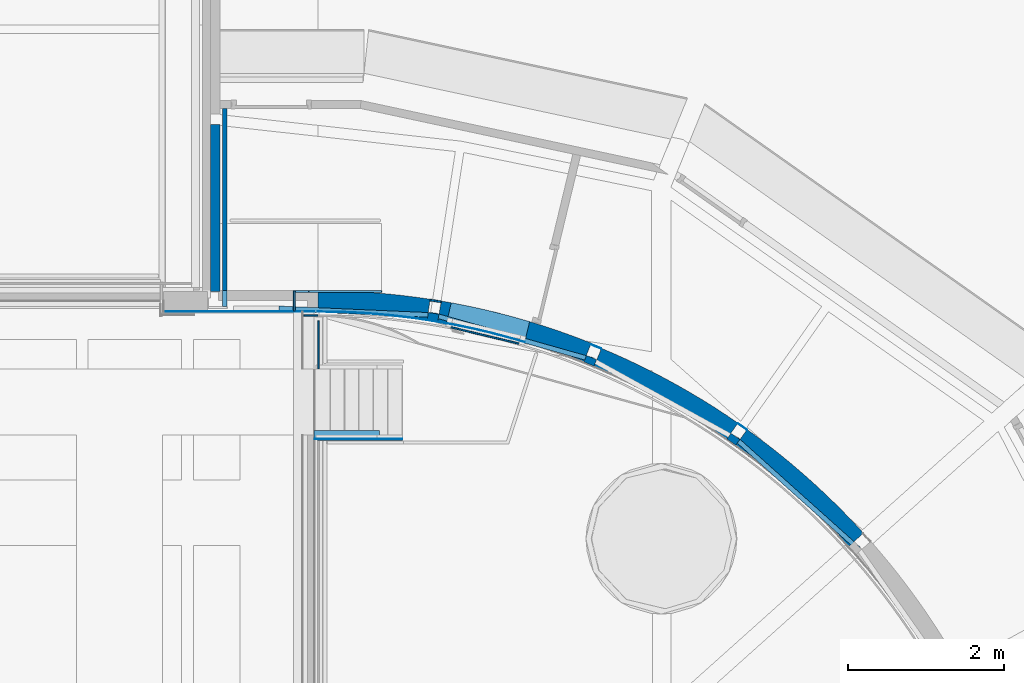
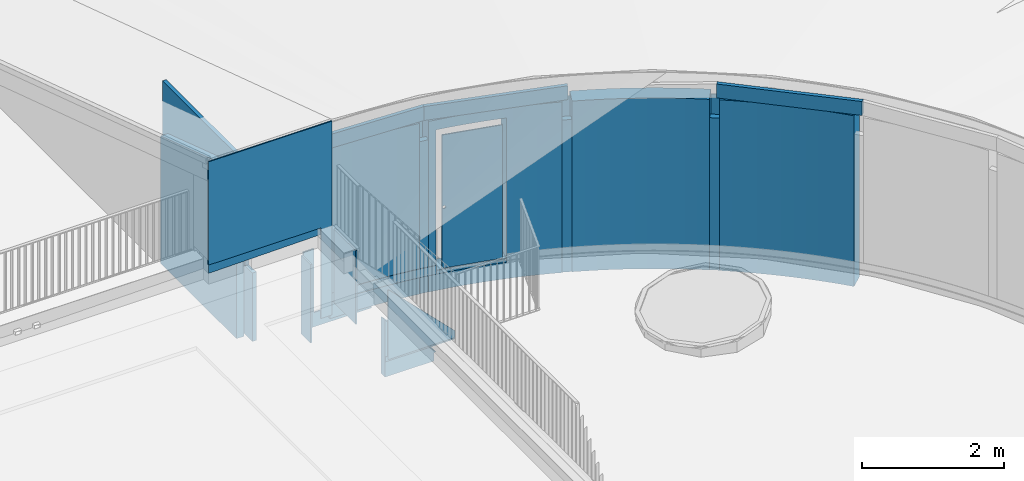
# One storey, part 33 of 66: 26 walls, 7 openings.
"""IFC2X3 building model written with IfcOpenShell, lengths in millimetres."""

from ifc_helpers import new_model, entity, si_unit, converted_unit, derived_unit, direction, frame, frame_2d, origin, origin_2d_with_axis, place, context, subcontext, project, spatial, polyline, circle_curve, parameter, trimmed, segment, composite_curve, rectangle, circle, outline, extrude, clip, halfspace, material, layer, layer_set, layer_usage, type_object, element, save


model = new_model("IFC2X3")

# Units and contexts
model_context = context("Model", 3, precision=0.01, world=origin(), true_north=direction((6.12303176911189e-17, 1.0)))
body_context = subcontext(model_context, "Body", "Model", "MODEL_VIEW")
ifc_project = project(units=[si_unit("LENGTHUNIT", "METRE", prefix="MILLI"), si_unit("AREAUNIT", "SQUARE_METRE"), si_unit("VOLUMEUNIT", "CUBIC_METRE"), converted_unit("PLANEANGLEUNIT", "DEGREE", entity("IfcRatioMeasure", 0.0174532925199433), si_unit("PLANEANGLEUNIT", "RADIAN"), dimensions=[0, 0, 0, 0, 0, 0, 0]), si_unit("MASSUNIT", "GRAM", prefix="KILO"), derived_unit("MASSDENSITYUNIT", [(si_unit("MASSUNIT", "GRAM", prefix="KILO"), 1), (si_unit("LENGTHUNIT", "METRE"), -3)]), derived_unit("MOMENTOFINERTIAUNIT", [(si_unit("LENGTHUNIT", "METRE"), 4)]), si_unit("TIMEUNIT", "SECOND"), si_unit("FREQUENCYUNIT", "HERTZ"), si_unit("THERMODYNAMICTEMPERATUREUNIT", "DEGREE_CELSIUS"), derived_unit("THERMALTRANSMITTANCEUNIT", [(si_unit("MASSUNIT", "GRAM", prefix="KILO"), 1), (si_unit("THERMODYNAMICTEMPERATUREUNIT", "KELVIN"), -1), (si_unit("TIMEUNIT", "SECOND"), -3)]), derived_unit("VOLUMETRICFLOWRATEUNIT", [(si_unit("LENGTHUNIT", "METRE"), 3), (si_unit("TIMEUNIT", "SECOND"), -1)]), si_unit("ELECTRICCURRENTUNIT", "AMPERE"), si_unit("ELECTRICVOLTAGEUNIT", "VOLT"), si_unit("POWERUNIT", "WATT"), si_unit("FORCEUNIT", "NEWTON", prefix="KILO"), si_unit("ILLUMINANCEUNIT", "LUX"), si_unit("LUMINOUSFLUXUNIT", "LUMEN"), si_unit("LUMINOUSINTENSITYUNIT", "CANDELA"), derived_unit("USERDEFINED", [(si_unit("MASSUNIT", "GRAM", prefix="KILO"), -1), (si_unit("LENGTHUNIT", "METRE"), -2), (si_unit("TIMEUNIT", "SECOND"), 3), (si_unit("LUMINOUSFLUXUNIT", "LUMEN"), 1)]), derived_unit("LINEARVELOCITYUNIT", [(si_unit("LENGTHUNIT", "METRE"), 1), (si_unit("TIMEUNIT", "SECOND"), -1)]), si_unit("PRESSUREUNIT", "PASCAL"), derived_unit("USERDEFINED", [(si_unit("LENGTHUNIT", "METRE"), -2), (si_unit("MASSUNIT", "GRAM", prefix="KILO"), 1), (si_unit("TIMEUNIT", "SECOND"), -2)]), derived_unit("LINEARFORCEUNIT", [(si_unit("MASSUNIT", "GRAM", prefix="KILO"), 1), (si_unit("LENGTHUNIT", "METRE"), 1), (si_unit("TIMEUNIT", "SECOND"), -2), (si_unit("LENGTHUNIT", "METRE"), -1)]), derived_unit("PLANARFORCEUNIT", [(si_unit("MASSUNIT", "GRAM", prefix="KILO"), 1), (si_unit("LENGTHUNIT", "METRE"), 1), (si_unit("TIMEUNIT", "SECOND"), -2), (si_unit("LENGTHUNIT", "METRE"), -2)])], contexts=[model_context])

# Site, building, storey
site_placement = place(None, origin())
site = spatial("IfcSite", under=ifc_project, at=site_placement, Name="Default", CompositionType="ELEMENT")
building_placement = place(site_placement, origin())
building = spatial("IfcBuilding", under=site, at=building_placement, Name="-", CompositionType="ELEMENT")
storey_placement = place(building_placement, frame((0.0, 0.0, 3070.0)))
storey = spatial("IfcBuildingStorey", under=building, at=storey_placement, Name="01 eerste verdieping", CompositionType="ELEMENT", Elevation=3070.00000000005)

# Wall
ifc_material_1 = material(Name="NLRS_f1_kalkzandsteen_CS20")
ifc_layer_1 = layer(ifc_material_1, 120.0)
ifc_layer_set_1 = layer_set([ifc_layer_1], Name="Basic Wall:NLRS_21_WA_kalkzandsteen_120mm_CS20_gen_aly")
ifc_layer_usage_1 = layer_usage(ifc_layer_set_1, "AXIS2", "NEGATIVE", 60.0)
wall_type_1 = type_object("IfcWallType", Name="Basic Wall:NLRS_21_WA_kalkzandsteen_120mm_CS20_gen_aly", PredefinedType="STANDARD", material=ifc_layer_set_1)
wall_1_placement = place(storey_placement, frame((49329.6203901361, 31216.9445357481, 82.0), z_axis=(0.0, 0.0, 1.0), x_axis=(0.0, -1.0, 0.0)))
element("IfcWallStandardCase", 1, at=wall_1_placement, inside=storey, type_object=wall_type_1, material=ifc_layer_usage_1, Name="Basic Wall:NLRS_21_WA_kalkzandsteen_120mm_CS20_gen_aly", ObjectType="Basic Wall:NLRS_21_WA_kalkzandsteen_120mm_CS20_gen_aly", context=body_context, shape_type="Clipping", body=[
    clip(extrude(rectangle(XDim=2144.44917322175, YDim=120.000000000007, at=frame_2d((1072.22458661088, 1.36779476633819e-12), x_axis=(-1.0, 0.0))), origin(), (0.0, 0.0, 1.0), 2909.28783057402), halfspace(frame((0.0, -60.0, 2200.45842531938), z_axis=(-0.313841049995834, 0.0, 0.949475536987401), x_axis=(0.0, 1.0, 0.0)), False)),
])

# Wall, opening
ifc_material_2 = material(Name="NLRS_i4_hout_multiplex")
ifc_layer_2 = layer(ifc_material_2, 9.0)
ifc_material_3 = material(Name="NLRS_m1_isolatie")
ifc_layer_3 = layer(ifc_material_3, 89.0)
ifc_layer_4 = layer(ifc_material_2, 9.0)
ifc_layer_set_2 = layer_set([ifc_layer_2, ifc_layer_3, ifc_layer_4], Name="Basic Wall:NLRS_21_WA_HSB-wand_110mm")
ifc_layer_usage_2 = layer_usage(ifc_layer_set_2, "AXIS2", "NEGATIVE", 53.5)
wall_type_2 = type_object("IfcWallType", Name="Basic Wall:NLRS_21_WA_HSB-wand_110mm", PredefinedType="STANDARD", material=ifc_layer_set_2)
wall_2_placement = place(storey_placement, frame((50599.1203901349, 27234.4965964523, 100.0)))
wall_2 = element("IfcWallStandardCase", 2, at=wall_2_placement, inside=storey, type_object=wall_type_2, material=ifc_layer_usage_2, Name="Basic Wall:NLRS_21_WA_HSB-wand_110mm", ObjectType="Basic Wall:NLRS_21_WA_HSB-wand_110mm", context=body_context, shape_type="Clipping", body=[
    clip(clip(extrude(rectangle(XDim=839.165664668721, YDim=107.000000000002, at=frame_2d((419.582832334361, -3.30402372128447e-13), x_axis=(-1.0, 0.0))), origin(), (0.0, 0.0, 1.0), 985.813669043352), halfspace(frame((0.0, -53.5000000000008, 985.813669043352), z_axis=(0.707379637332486, 0.0, 0.706833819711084), x_axis=(0.0, 1.0, 0.0)), False)), halfspace(frame((802.499999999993, 0.0, 0.0), z_axis=(0.969883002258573, 0.0, -0.243571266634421), x_axis=(0.0, 1.0, 0.0)), False)),
])
opening_1_placement = place(wall_2_placement, origin())
element("IfcOpeningElement", 3, at=opening_1_placement, cuts=wall_2, Name="Basic Wall:NLRS_21_WA_HSB-wand_110mm", ObjectType="Opening", context=body_context, shape_type="SweptSolid", body=[
    extrude(outline(polyline([(-97.3788463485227, -11.8538016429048), (53.1547743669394, -11.8538016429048), (44.2240719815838, 23.7076032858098), (-97.3788463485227, -11.8538016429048)])), frame((814.721888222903, 53.5000000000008, 97.333333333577), z_axis=(0.0, -1.0, 0.0), x_axis=(0.243571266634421, 0.0, 0.969883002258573)), (0.0, 0.0, 1.0), 107.0),
])

ifc_material_4 = material(Name="AL Houten gevelbekleding staand")
ifc_layer_5 = layer(ifc_material_4, 20.0)
ifc_layer_set_3 = layer_set([ifc_layer_5], Name="Basic Wall:NLRS_42_WA_Houten gevelbekleding staand 20mm")
ifc_layer_usage_3 = layer_usage(ifc_layer_set_3, "AXIS2", "NEGATIVE", 10.0)
wall_type_3 = type_object("IfcWallType", Name="Basic Wall:NLRS_42_WA_Houten gevelbekleding staand 20mm", PredefinedType="STANDARD", material=ifc_layer_set_3)
wall_3_placement = place(storey_placement, frame((50647.2850050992, 28764.4953625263, 206.0), z_axis=(0.0, 0.0, 1.0), x_axis=(-1.0, 0.0, 0.0)))
wall_3 = element("IfcWallStandardCase", 4, at=wall_3_placement, inside=storey, type_object=wall_type_3, material=ifc_layer_usage_3, Name="Basic Wall:NLRS_42_WA_Houten gevelbekleding staand 20mm", ObjectType="Basic Wall:NLRS_42_WA_Houten gevelbekleding staand 20mm", context=body_context, shape_type="SweptSolid", body=[
    extrude(rectangle(XDim=2020.164614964, YDim=20.0000000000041, at=frame_2d((1010.082307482, 0.0), x_axis=(-1.0, 0.0))), origin(), (0.0, 0.0, 1.0), 3344.0),
])
opening_2_placement = place(wall_3_placement, origin())
element("IfcOpeningElement", 5, at=opening_2_placement, cuts=wall_3, Name="Basic Wall:NLRS_42_WA_Houten gevelbekleding staand 20mm", ObjectType="Opening", context=body_context, shape_type="SweptSolid", body=[
    extrude(rectangle(XDim=1564.0, YDim=1838.24999999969, at=frame_2d((0.0, -5.6843418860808e-13), x_axis=(0.0, 1.0))), frame((1101.03961496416, 10.0, 782.0), z_axis=(0.0, -1.0, 0.0), x_axis=(1.0, 0.0, 0.0)), (0.0, 0.0, 1.0), 20.0),
])

# Wall
ifc_layer_usage_4 = layer_usage(ifc_layer_set_3, "AXIS2", "NEGATIVE", 10.0)
wall_4_placement = place(storey_placement, frame((50652.137263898, 28080.7088527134, 450.0), z_axis=(0.0, 0.0, 1.0), x_axis=(0.0, 1.0, 0.0)))
element("IfcWallStandardCase", 6, at=wall_4_placement, inside=storey, type_object=wall_type_3, material=ifc_layer_usage_4, Name="Basic Wall:NLRS_42_WA_Houten gevelbekleding staand 20mm", ObjectType="Basic Wall:NLRS_42_WA_Houten gevelbekleding staand 20mm", context=body_context, shape_type="SweptSolid", body=[
    extrude(rectangle(XDim=614.999999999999, YDim=19.9999999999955, at=frame_2d((307.499999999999, 0.0), x_axis=(-1.0, 0.0))), origin(), (0.0, 0.0, 1.0), 1275.0),
])

# Wall, opening
ifc_layer_usage_5 = layer_usage(ifc_layer_set_3, "AXIS2", "NEGATIVE", 10.0)
wall_5_placement = place(storey_placement, frame((52352.6586074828, 28614.2532488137, 502.0), z_axis=(0.0, 0.0, 1.0), x_axis=(0.972188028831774, -0.234201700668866, 0.0)))
wall_5 = element("IfcWallStandardCase", 7, at=wall_5_placement, inside=storey, type_object=wall_type_3, material=ifc_layer_usage_5, Name="Basic Wall:NLRS_42_WA_Houten gevelbekleding staand 20mm", ObjectType="Basic Wall:NLRS_42_WA_Houten gevelbekleding staand 20mm", context=body_context, shape_type="SweptSolid", body=[
    extrude(rectangle(XDim=896.876860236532, YDim=20.0000000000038, at=frame_2d((448.438430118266, 1.88205007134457e-12), x_axis=(-1.0, 0.0))), origin(), (0.0, 0.0, 1.0), 2299.67788980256),
])
opening_3_placement = place(wall_5_placement, origin())
element("IfcOpeningElement", 8, at=opening_3_placement, cuts=wall_5, Name="Basic Wall:NLRS_42_WA_Houten gevelbekleding staand 20mm", ObjectType="Opening", context=body_context, shape_type="SweptSolid", body=[
    extrude(circle(Radius=24.9999999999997, at=origin_2d_with_axis()), frame((34.0629532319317, 10.0, 1050.0), z_axis=(0.0, -1.0, 0.0), x_axis=(-1.0, 0.0, 0.0)), (0.0, 0.0, 1.0), 20.0),
])

# Wall
ifc_layer_6 = layer(ifc_material_2, 10.0)
ifc_layer_7 = layer(ifc_material_3, 235.0)
ifc_layer_8 = layer(ifc_material_2, 10.0)
ifc_material_5 = material(Name="NLRS_f7_gipsplaat_gen")
ifc_layer_9 = layer(ifc_material_5, 12.5)
ifc_layer_set_4 = layer_set([ifc_layer_6, ifc_layer_7, ifc_layer_8, ifc_layer_9], Name="Basic Wall:NLRS_21_WA_HSB-wand_268mm")
ifc_layer_usage_6 = layer_usage(ifc_layer_set_4, "AXIS2", "NEGATIVE", 133.75)
wall_type_4 = type_object("IfcWallType", Name="Basic Wall:NLRS_21_WA_HSB-wand_268mm", PredefinedType="STANDARD", material=ifc_layer_set_4)
wall_6_placement = place(storey_placement, frame((52066.9767702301, 28842.5495584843, 100.0)))
element("IfcWallStandardCase", 9, at=wall_6_placement, inside=storey, type_object=wall_type_4, material=ifc_layer_usage_6, Name="Basic Wall:NLRS_21_WA_HSB-wand_268mm", ObjectType="Basic Wall:NLRS_21_WA_HSB-wand_268mm", context=body_context, shape_type="SweptSolid", body=[
    extrude(outline(composite_curve([segment(trimmed(circle_curve(frame_2d((-1420.41410821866, -9226.4898295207), x_axis=(1.0, 0.0)), 9201.4356335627), [parameter(81.2480497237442)], [parameter(89.9999999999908)], True, "PARAMETER"), False, "CONTINUOUS"), segment(polyline([(-20.351002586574, -132.192659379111), (20.3510025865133, 132.192659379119)]), True, "CONTINUOUS"), segment(trimmed(circle_curve(frame_2d((-1420.41410821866, -9226.4898295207), x_axis=(1.0, 0.0)), 9468.9356335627), [parameter(81.2480497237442)], [parameter(89.9999999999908)], True, "PARAMETER"), True, "CONTINUOUS"), segment(polyline([(-1420.41410821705, 242.445804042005), (-1420.41410821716, -25.0541959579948)]), True, "CONTINUOUS")], self_intersect=False)), origin(), (0.0, 0.0, 1.0), 2945.0),
])

# Wall, opening
ifc_layer_usage_7 = layer_usage(ifc_layer_set_4, "AXIS2", "NEGATIVE", 133.75)
wall_7_placement = place(storey_placement, frame((54104.8715482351, 28287.0337492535, 100.0)))
wall_7 = element("IfcWallStandardCase", 10, at=wall_7_placement, inside=storey, type_object=wall_type_4, material=ifc_layer_usage_7, Name="Basic Wall:NLRS_21_WA_HSB-wand_268mm", ObjectType="Basic Wall:NLRS_21_WA_HSB-wand_268mm", context=body_context, shape_type="SweptSolid", body=[
    extrude(outline(composite_curve([segment(trimmed(circle_curve(frame_2d((-3458.30888622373, -8670.97402028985), x_axis=(1.0, 0.0)), 9201.4356335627), [parameter(68.2560368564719)], [parameter(80.3737254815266)], True, "PARAMETER"), False, "CONTINUOUS"), segment(polyline([(-49.5489679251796, -124.233499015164), (49.548967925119, 124.233499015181)]), True, "CONTINUOUS"), segment(trimmed(circle_curve(frame_2d((-3458.30888622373, -8670.97402028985), x_axis=(1.0, 0.0)), 9468.9356335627), [parameter(68.2560368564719)], [parameter(80.3737254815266)], True, "PARAMETER"), True, "CONTINUOUS"), segment(polyline([(-1874.90509782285, 664.633858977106), (-1919.6366843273, 400.90040419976)]), True, "CONTINUOUS")], self_intersect=False)), origin(), (0.0, 0.0, 1.0), 2945.0),
])
opening_4_placement = place(wall_7_placement, origin())
element("IfcOpeningElement", 11, at=opening_4_placement, cuts=wall_7, Name="Basic Wall:NLRS_21_WA_HSB-wand_268mm", ObjectType="Opening", context=body_context, shape_type="SweptSolid", body=[
    extrude(rectangle(XDim=460.086226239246, YDim=1033.98355141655, at=frame_2d((-5.24380538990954e-12, 3.18323145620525e-12), x_axis=(1.0, 0.0))), frame((-1276.97674971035, 383.845078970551, 350.0), z_axis=(0.0, 0.0, 1.0), x_axis=(-0.234120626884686, -0.972207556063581, 0.0)), (0.0, 0.0, 1.0), 2422.0),
    extrude(rectangle(XDim=1034.0, YDim=450.000000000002, at=frame_2d((3.75166564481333e-12, -3.11217718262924e-12), x_axis=(1.0, 0.0))), frame((-1282.41812347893, -17721.1398156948, 350.0), z_axis=(0.0, 0.0, 1.0), x_axis=(-0.972293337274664, -0.233764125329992, 0.0)), (0.0, 0.0, 1.0), 2422.0),
])

# Walls
ifc_layer_10 = layer(ifc_material_2, 10.0)
ifc_layer_11 = layer(ifc_material_3, 235.0)
ifc_layer_12 = layer(ifc_material_2, 10.0)
ifc_layer_set_5 = layer_set([ifc_layer_10, ifc_layer_11, ifc_layer_12], Name="Basic Wall:NLRS_21_WA_HSB-wand_268mm (zonder gips)")
ifc_layer_usage_8 = layer_usage(ifc_layer_set_5, "AXIS2", "NEGATIVE", 127.5)
wall_type_5 = type_object("IfcWallType", Name="Basic Wall:NLRS_21_WA_HSB-wand_268mm (zonder gips)", PredefinedType="STANDARD", material=ifc_layer_set_5)
wall_8_placement = place(storey_placement, frame((55964.3483738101, 27281.0056598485, 100.0)))
element("IfcWallStandardCase", 12, at=wall_8_placement, inside=storey, type_object=wall_type_5, material=ifc_layer_usage_8, Name="Basic Wall:NLRS_21_WA_HSB-wand_268mm (zonder gips)", ObjectType="Basic Wall:NLRS_21_WA_HSB-wand_268mm (zonder gips)", context=body_context, shape_type="SweptSolid", body=[
    extrude(outline(composite_curve([segment(trimmed(circle_curve(frame_2d((-5317.78571179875, -7664.9459308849), x_axis=(1.0, 0.0)), 9201.5), [parameter(55.2478628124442)], [parameter(67.3638573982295)], True, "PARAMETER"), False, "CONTINUOUS"), segment(polyline([(-72.678494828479, -104.757273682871), (72.6784948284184, 104.757273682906)]), True, "CONTINUOUS"), segment(trimmed(circle_curve(frame_2d((-5317.78571179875, -7664.9459308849), x_axis=(1.0, 0.0)), 9456.5), [parameter(55.2478628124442)], [parameter(67.3638573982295)], True, "PARAMETER"), True, "CONTINUOUS"), segment(polyline([(-1678.19055500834, 1063.09734035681), (-1776.33434657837, 827.740597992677)]), True, "CONTINUOUS")], self_intersect=False)), origin(), (0.0, 0.0, 1.0), 2945.0),
])
ifc_layer_usage_9 = layer_usage(ifc_layer_set_5, "AXIS2", "NEGATIVE", 127.5)
wall_9_placement = place(storey_placement, frame((57552.9037374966, 25887.6379951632, 100.0)))
element("IfcWallStandardCase", 13, at=wall_9_placement, inside=storey, type_object=wall_type_5, material=ifc_layer_usage_9, Name="Basic Wall:NLRS_21_WA_HSB-wand_268mm (zonder gips)", ObjectType="Basic Wall:NLRS_21_WA_HSB-wand_268mm (zonder gips)", context=body_context, shape_type="SweptSolid", body=[
    extrude(outline(composite_curve([segment(trimmed(circle_curve(frame_2d((-6906.34107548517, -6271.57826619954), x_axis=(1.0, 0.0)), 9201.5), [parameter(42.2422702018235)], [parameter(54.3753457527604)], True, "PARAMETER"), False, "CONTINUOUS"), segment(polyline([(-94.3893758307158, -85.7140346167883), (94.3893758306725, 85.7140346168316)]), True, "CONTINUOUS"), segment(trimmed(circle_curve(frame_2d((-6906.34107548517, -6271.57826619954), x_axis=(1.0, 0.0)), 9456.5), [parameter(42.2422702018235)], [parameter(54.3753457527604)], True, "PARAMETER"), True, "CONTINUOUS"), segment(polyline([(-1398.18712063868, 1415.13964586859), (-1546.71768252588, 1207.86284498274)]), True, "CONTINUOUS")], self_intersect=False)), origin(), (0.0, 0.0, 1.0), 2945.0),
])
ifc_material_6 = material(Name="AL Houten beplating gevel")
ifc_layer_13 = layer(ifc_material_6, 18.0)
ifc_layer_set_6 = layer_set([ifc_layer_13], Name="Basic Wall:NLRS_42_WA_Trespa bruin")
ifc_layer_usage_10 = layer_usage(ifc_layer_set_6, "AXIS2", "NEGATIVE", 9.0)
wall_type_6 = type_object("IfcWallType", Name="Basic Wall:NLRS_42_WA_Trespa bruin", PredefinedType="STANDARD", material=ifc_layer_set_6)
wall_10_placement = place(storey_placement, frame((50643.1372638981, 27171.9965964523, 400.0)))
element("IfcWallStandardCase", 14, at=wall_10_placement, inside=storey, type_object=wall_type_6, material=ifc_layer_usage_10, Name="Basic Wall:NLRS_42_WA_Trespa bruin", ObjectType="Basic Wall:NLRS_42_WA_Trespa bruin", context=body_context, shape_type="Clipping", body=[
    clip(clip(extrude(rectangle(XDim=1088.48312623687, YDim=17.9999999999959, at=frame_2d((544.241563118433, 3.5527136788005e-15), x_axis=(-1.0, 0.0))), origin(), (0.0, 0.0, 1.0), 1189.65278426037), halfspace(frame((1088.48312623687, -9.0, 0.0), z_axis=(0.0, 0.0, -1.0), x_axis=(0.0, 1.0, 0.0)), False)), halfspace(frame((19.0, -9.0, 1189.65278426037), z_axis=(0.707709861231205, 0.0, 0.706503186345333), x_axis=(0.0, 1.0, 0.0)), False)),
])
ifc_material_7 = material(Name="n2_bitumen_dak bedekking")
ifc_layer_14 = layer(ifc_material_7, 6.0)
ifc_layer_set_7 = layer_set([ifc_layer_14], Name="Basic Wall:47.11_2 laagse APP dakbedekking")
ifc_layer_usage_11 = layer_usage(ifc_layer_set_7, "AXIS2", "NEGATIVE", 3.0)
wall_type_7 = type_object("IfcWallType", Name="Basic Wall:47.11_2 laagse APP dakbedekking", PredefinedType="STANDARD", material=ifc_layer_set_7)
wall_11_placement = place(storey_placement, frame((50599.1203901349, 28814.4953625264, 1580.60670313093), z_axis=(0.0, 0.0, 1.0), x_axis=(-1.0, 0.0, 0.0)))
element("IfcWallStandardCase", 15, at=wall_11_placement, inside=storey, type_object=wall_type_7, material=ifc_layer_usage_11, Name="Basic Wall:47.11_2 laagse APP dakbedekking", ObjectType="Basic Wall:47.11_2 laagse APP dakbedekking", context=body_context, shape_type="Clipping", body=[
    clip(extrude(rectangle(XDim=1932.55772812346, YDim=5.99999999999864, at=frame_2d((966.278864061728, 6.19948536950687e-13), x_axis=(-1.0, 0.0))), origin(), (0.0, 0.0, 1.0), 219.393296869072), halfspace(frame((1932.55772812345, -3.0, 0.0), z_axis=(-0.0159979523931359, 0.0, -0.999872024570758), x_axis=(0.0, 1.0, 0.0)), False)),
])
ifc_layer_usage_12 = layer_usage(ifc_layer_set_7, "AXIS2", "POSITIVE", -3.0)
wall_12_placement = place(storey_placement, frame((51731.6203901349, 27177.9965964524, 365.869195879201), z_axis=(0.0, 0.0, 1.0), x_axis=(-1.0, 0.0, 0.0)))
element("IfcWallStandardCase", 16, at=wall_12_placement, inside=storey, type_object=wall_type_7, material=ifc_layer_usage_12, Name="Basic Wall:47.11_2 laagse APP dakbedekking", ObjectType="Basic Wall:47.11_2 laagse APP dakbedekking", context=body_context, shape_type="SweptSolid", body=[
    extrude(rectangle(XDim=1126.48312623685, YDim=5.99999999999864, at=frame_2d((563.241563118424, 0.0), x_axis=(-1.0, 0.0))), origin(), (0.0, 0.0, 1.0), 84.1308041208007),
])
ifc_layer_usage_13 = layer_usage(ifc_layer_set_7, "AXIS2", "NEGATIVE", 3.0)
wall_13_placement = place(storey_placement, frame((53299.9188444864, 28423.4951714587, 387.0)))
element("IfcWallStandardCase", 17, at=wall_13_placement, inside=storey, type_object=wall_type_7, material=ifc_layer_usage_13, Name="Basic Wall:47.11_2 laagse APP dakbedekking", ObjectType="Basic Wall:47.11_2 laagse APP dakbedekking", context=body_context, shape_type="SweptSolid", body=[
    extrude(outline(composite_curve([segment(trimmed(circle_curve(frame_2d((-2653.35618247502, -8807.43544249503), x_axis=(1.0, 0.0)), 9195.4356335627), [parameter(73.2343788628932)], [parameter(79.6762115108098)], True, "PARAMETER"), False, "CONTINUOUS"), segment(polyline([(-0.865371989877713, -2.87247825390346), (0.865371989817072, 2.87247825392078)]), True, "CONTINUOUS"), segment(trimmed(circle_curve(frame_2d((-2653.35618247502, -8807.43544249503), x_axis=(1.0, 0.0)), 9201.4356335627), [parameter(73.2343788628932)], [parameter(79.6762115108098)], True, "PARAMETER"), True, "CONTINUOUS"), segment(polyline([(-1004.36049448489, 245.035542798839), (-1005.43575866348, 239.132678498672)]), True, "CONTINUOUS")], self_intersect=False)), origin(), (0.0, 0.0, 1.0), 62.9999999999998),
])
ifc_layer_usage_14 = layer_usage(ifc_layer_set_7, "AXIS2", "NEGATIVE", 3.0)
wall_14_placement = place(storey_placement, frame((52295.0207179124, 28665.5792821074, 387.0)))
element("IfcWallStandardCase", 18, at=wall_14_placement, inside=storey, type_object=wall_type_7, material=ifc_layer_usage_14, Name="Basic Wall:47.11_2 laagse APP dakbedekking", ObjectType="Basic Wall:47.11_2 laagse APP dakbedekking", context=body_context, shape_type="SweptSolid", body=[
    extrude(outline(composite_curve([segment(trimmed(circle_curve(frame_2d((-1648.45805590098, -9049.51955314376), x_axis=(1.0, 0.0)), 9195.4356335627), [parameter(79.6762115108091)], [parameter(90.0000000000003)], True, "PARAMETER"), False, "CONTINUOUS"), segment(polyline([(-0.537632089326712, -2.95143215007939), (0.537632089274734, 2.95143215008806)]), True, "CONTINUOUS"), segment(trimmed(circle_curve(frame_2d((-1648.45805590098, -9049.51955314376), x_axis=(1.0, 0.0)), 9201.4356335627), [parameter(79.676211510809)], [parameter(90.0000000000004)], True, "PARAMETER"), True, "CONTINUOUS"), segment(polyline([(-1648.45805590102, 151.916080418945), (-1648.45805590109, 145.916080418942)]), True, "CONTINUOUS")], self_intersect=False)), origin(), (0.0, 0.0, 1.0), 150.000000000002),
])
ifc_material_8 = material(Name="NLRS_n7_isolatie PIR_gen")
ifc_layer_15 = layer(ifc_material_8, 60.0)
ifc_layer_set_8 = layer_set([ifc_layer_15], Name="Basic Wall:NLRS_22_WA_LB_isolatie PIR 60mm")
ifc_layer_usage_15 = layer_usage(ifc_layer_set_8, "AXIS2", "NEGATIVE", 30.0)
wall_type_8 = type_object("IfcWallType", Name="Basic Wall:NLRS_22_WA_LB_isolatie PIR 60mm", PredefinedType="STANDARD", material=ifc_layer_set_8)
wall_15_placement = place(storey_placement, frame((50145.2168861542, 28857.5241928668, 3045.0), z_axis=(0.0, 0.0, 1.0), x_axis=(0.999038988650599, -0.0438303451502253, 0.0)))
element("IfcWallStandardCase", 19, at=wall_15_placement, inside=storey, type_object=wall_type_8, material=ifc_layer_usage_15, Name="Basic Wall:NLRS_22_WA_LB_isolatie PIR 60mm", ObjectType="Basic Wall:NLRS_22_WA_LB_isolatie PIR 60mm", context=body_context, shape_type="SweptSolid", body=[
    extrude(outline(polyline([(1995.82408127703, -30.0), (2002.80739558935, 30.0), (0.0, 30.0), (1.31554248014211, -30.0), (1995.82408127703, -30.0)])), origin(), (0.0, 0.0, 1.0), 240.000000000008),
])
ifc_layer_usage_16 = layer_usage(ifc_layer_set_8, "AXIS2", "NEGATIVE", 30.0)
wall_16_placement = place(storey_placement, frame((52139.2513500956, 28770.8435880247, 3045.0), z_axis=(0.0, 0.0, 1.0), x_axis=(0.962267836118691, -0.27210404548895, 0.0)))
element("IfcWallStandardCase", 20, at=wall_16_placement, inside=storey, type_object=wall_type_8, material=ifc_layer_usage_16, Name="Basic Wall:NLRS_22_WA_LB_isolatie PIR 60mm", ObjectType="Basic Wall:NLRS_22_WA_LB_isolatie PIR 60mm", context=body_context, shape_type="SweptSolid", body=[
    extrude(outline(polyline([(2102.65804485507, -30.0), (2109.51851525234, 30.0), (0.0, 30.0), (6.98331431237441, -30.0), (2102.65804485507, -30.0)])), origin(), (0.0, 0.0, 1.0), 240.000000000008),
])
ifc_layer_usage_17 = layer_usage(ifc_layer_set_8, "AXIS2", "NEGATIVE", 30.0)
wall_17_placement = place(storey_placement, frame((56013.3718357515, 27181.4961057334, 3045.0), z_axis=(0.0, 0.0, 1.0), x_axis=(0.744399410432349, -0.667734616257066, 0.0)))
element("IfcWallStandardCase", 21, at=wall_17_placement, inside=storey, type_object=wall_type_8, material=ifc_layer_usage_17, Name="Basic Wall:NLRS_22_WA_LB_isolatie PIR 60mm", ObjectType="Basic Wall:NLRS_22_WA_LB_isolatie PIR 60mm", context=body_context, shape_type="SweptSolid", body=[
    extrude(outline(polyline([(2106.4598974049, -30.0), (2113.31375554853, 30.0), (0.0, 30.0), (6.86641126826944, -30.0), (2106.4598974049, -30.0)])), origin(), (0.0, 0.0, 1.0), 240.000000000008),
])
ifc_layer_16 = layer(ifc_material_8, 90.0)
ifc_layer_set_9 = layer_set([ifc_layer_16], Name="Basic Wall:NLRS_22_WA_LB_isolatie PIR 90mm")
ifc_layer_usage_18 = layer_usage(ifc_layer_set_9, "AXIS2", "NEGATIVE", 45.0)
wall_type_9 = type_object("IfcWallType", Name="Basic Wall:NLRS_22_WA_LB_isolatie PIR 90mm", PredefinedType="STANDARD", material=ifc_layer_set_9)
wall_18_placement = place(storey_placement, frame((56035.3274158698, 27137.6896602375, 100.0), z_axis=(0.0, 0.0, 1.0), x_axis=(-0.821474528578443, 0.570245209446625, 0.0)))
element("IfcWallStandardCase", 22, at=wall_18_placement, inside=storey, type_object=wall_type_9, material=ifc_layer_usage_18, Name="Basic Wall:NLRS_22_WA_LB_isolatie PIR 90mm", ObjectType="Basic Wall:NLRS_22_WA_LB_isolatie PIR 90mm", context=body_context, shape_type="SweptSolid", body=[
    extrude(rectangle(XDim=137.804605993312, YDim=90.0000000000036, at=frame_2d((68.9023029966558, 0.0), x_axis=(-1.0, 0.0))), origin(), (0.0, 0.0, 1.0), 2625.73599912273),
])
ifc_layer_usage_19 = layer_usage(ifc_layer_set_9, "AXIS2", "POSITIVE", -45.0)
wall_19_placement = place(storey_placement, frame((54206.6246955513, 28157.6465807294, 100.0), z_axis=(0.0, 0.0, 1.0), x_axis=(-0.92595318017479, 0.377638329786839, 0.0)))
element("IfcWallStandardCase", 23, at=wall_19_placement, inside=storey, type_object=wall_type_9, material=ifc_layer_usage_19, Name="Basic Wall:NLRS_22_WA_LB_isolatie PIR 90mm", ObjectType="Basic Wall:NLRS_22_WA_LB_isolatie PIR 90mm", context=body_context, shape_type="SweptSolid", body=[
    extrude(rectangle(XDim=140.496150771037, YDim=89.9999999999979, at=frame_2d((70.2480753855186, 9.9120711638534e-13), x_axis=(-1.0, 0.0))), origin(), (0.0, 0.0, 1.0), 2625.73599912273),
])
ifc_layer_usage_20 = layer_usage(ifc_layer_set_9, "AXIS2", "NEGATIVE", 45.0)
wall_20_placement = place(storey_placement, frame((52192.4828165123, 28737.998753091, 100.0), z_axis=(0.0, 0.0, 1.0), x_axis=(-0.988462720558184, 0.151464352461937, 0.0)))
element("IfcWallStandardCase", 24, at=wall_20_placement, inside=storey, type_object=wall_type_9, material=ifc_layer_usage_20, Name="Basic Wall:NLRS_22_WA_LB_isolatie PIR 90mm", ObjectType="Basic Wall:NLRS_22_WA_LB_isolatie PIR 90mm", context=body_context, shape_type="SweptSolid", body=[
    extrude(rectangle(XDim=137.235427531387, YDim=89.9999999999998, at=frame_2d((68.6177137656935, 0.0), x_axis=(-1.0, 0.0))), origin(), (0.0, 0.0, 1.0), 2625.73599912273),
])
ifc_layer_17 = layer(ifc_material_5, 12.5)
ifc_layer_18 = layer(ifc_material_2, 10.0)
ifc_layer_set_10 = layer_set([ifc_layer_17, ifc_layer_18], Name="Basic Wall:NLRS_41_WA_Bekleding kolommen")
ifc_layer_usage_21 = layer_usage(ifc_layer_set_10, "AXIS2", "NEGATIVE", 11.25)
wall_type_10 = type_object("IfcWallType", Name="Basic Wall:NLRS_41_WA_Bekleding kolommen", PredefinedType="STANDARD", material=ifc_layer_set_10)
wall_21_placement = place(storey_placement, frame((52085.7007927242, 28963.6098249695, 100.0), z_axis=(0.0, 0.0, 1.0), x_axis=(0.987166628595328, -0.159693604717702, 0.0)))
element("IfcWallStandardCase", 25, at=wall_21_placement, inside=storey, type_object=wall_type_10, material=ifc_layer_usage_21, Name="Basic Wall:NLRS_41_WA_Bekleding kolommen", ObjectType="Basic Wall:NLRS_41_WA_Bekleding kolommen", context=body_context, shape_type="SweptSolid", body=[
    extrude(rectangle(XDim=144.149667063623, YDim=22.5000000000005, at=frame_2d((72.0748335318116, 6.91002810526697e-13), x_axis=(-1.0, 0.0))), origin(), (0.0, 0.0, 1.0), 2870.0),
])
ifc_layer_usage_22 = layer_usage(ifc_layer_set_10, "AXIS2", "NEGATIVE", 11.25)
wall_22_placement = place(storey_placement, frame((50342.8703901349, 28817.4953625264, -209.0), z_axis=(0.0, 0.0, 1.0), x_axis=(0.0, 1.0, 0.0)))
element("IfcWallStandardCase", 26, at=wall_22_placement, inside=storey, type_object=wall_type_10, material=ifc_layer_usage_22, Name="Basic Wall:NLRS_41_WA_Bekleding kolommen", ObjectType="Basic Wall:NLRS_41_WA_Bekleding kolommen", context=body_context, shape_type="SweptSolid", body=[
    extrude(rectangle(XDim=267.500000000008, YDim=22.5000000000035, at=frame_2d((133.750000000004, 0.0), x_axis=(-1.0, 0.0))), origin(), (0.0, 0.0, 1.0), 1351.0),
])

# Wall, openings
ifc_layer_usage_23 = layer_usage(ifc_layer_set_10, "AXIS2", "NEGATIVE", 11.25)
wall_23_placement = place(storey_placement, frame((50354.1203901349, 29073.7453625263, -189.0)))
wall_23 = element("IfcWallStandardCase", 27, at=wall_23_placement, inside=storey, type_object=wall_type_10, material=ifc_layer_usage_23, Name="Basic Wall:NLRS_41_WA_Bekleding kolommen", ObjectType="Basic Wall:NLRS_41_WA_Bekleding kolommen", context=body_context, shape_type="SweptSolid", body=[
    extrude(rectangle(XDim=1110.00000000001, YDim=22.5000000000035, at=frame_2d((555.000000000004, -8.70414851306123e-14), x_axis=(-1.0, 0.0))), origin(), (0.0, 0.0, 1.0), 1388.99999999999),
])
opening_5_placement = place(wall_23_placement, origin())
element("IfcOpeningElement", 28, at=opening_5_placement, cuts=wall_23, Name="Basic Wall:NLRS_41_WA_Bekleding kolommen", ObjectType="Opening", context=body_context, shape_type="SweptSolid", body=[
    extrude(rectangle(XDim=40.9999999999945, YDim=1032.49999999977, at=frame_2d((-4.32009983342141e-12, 1.62359015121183e-12), x_axis=(0.0, 1.0))), frame((593.750000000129, 11.2499999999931, 20.4999999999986), z_axis=(0.0, -1.0, 0.0), x_axis=(1.0, 0.0, 0.0)), (0.0, 0.0, 1.0), 22.5),
])
opening_6_placement = place(wall_23_placement, origin())
element("IfcOpeningElement", 29, at=opening_6_placement, cuts=wall_23, Name="Basic Wall:NLRS_41_WA_Bekleding kolommen", ObjectType="Opening", context=body_context, shape_type="SweptSolid", body=[
    extrude(rectangle(XDim=1099.99999999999, YDim=935.000000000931, at=frame_2d((5.6843418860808e-13, 0.0), x_axis=(1.0, 0.0))), frame((642.499999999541, 11.2500000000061, 839.0), z_axis=(0.0, -1.0, 0.0), x_axis=(0.0, 0.0, 1.0)), (0.0, 0.0, 1.0), 22.5),
])

# Walls
ifc_material_9 = material(Name="NLRS_i4_hout_multiplex wit")
ifc_layer_19 = layer(ifc_material_9, 9.0)
ifc_layer_set_11 = layer_set([ifc_layer_19], Name="Basic Wall:NLRS_41_WA_plaatmateriaal 9mm_gen_aly")
ifc_layer_usage_24 = layer_usage(ifc_layer_set_11, "AXIS2", "NEGATIVE", 4.5)
wall_type_11 = type_object("IfcWallType", Name="Basic Wall:NLRS_41_WA_plaatmateriaal 9mm_gen_aly", PredefinedType="STANDARD", material=ifc_layer_set_11)
wall_24_placement = place(storey_placement, frame((56033.8831045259, 27381.171468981, 100.0), z_axis=(0.0, 0.0, 1.0), x_axis=(0.817261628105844, -0.576266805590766, 0.0)))
element("IfcWallStandardCase", 30, at=wall_24_placement, inside=storey, type_object=wall_type_11, material=ifc_layer_usage_24, Name="Basic Wall:NLRS_41_WA_plaatmateriaal 9mm_gen_aly", ObjectType="Basic Wall:NLRS_41_WA_plaatmateriaal 9mm_gen_aly", context=body_context, shape_type="SweptSolid", body=[
    extrude(rectangle(XDim=143.851722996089, YDim=9.00000000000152, at=frame_2d((71.9258614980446, -1.7696955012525e-12), x_axis=(-1.0, 0.0))), origin(), (0.0, 0.0, 1.0), 2870.0),
])
ifc_layer_usage_25 = layer_usage(ifc_layer_set_11, "AXIS2", "NEGATIVE", 4.5)
wall_25_placement = place(storey_placement, frame((54147.7847359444, 28394.5348677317, 100.0), z_axis=(0.0, 0.0, 1.0), x_axis=(0.925936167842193, -0.377680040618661, 0.0)))
element("IfcWallStandardCase", 31, at=wall_25_placement, inside=storey, type_object=wall_type_11, material=ifc_layer_usage_25, Name="Basic Wall:NLRS_41_WA_plaatmateriaal 9mm_gen_aly", ObjectType="Basic Wall:NLRS_41_WA_plaatmateriaal 9mm_gen_aly", context=body_context, shape_type="SweptSolid", body=[
    extrude(rectangle(XDim=147.093394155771, YDim=8.99999999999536, at=frame_2d((73.5466970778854, 1.63558055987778e-12), x_axis=(-1.0, 0.0))), origin(), (0.0, 0.0, 1.0), 2870.0),
])

# Wall, opening
ifc_layer_20 = layer(ifc_material_3, 50.0)
ifc_layer_21 = layer(ifc_material_5, 12.5)
ifc_layer_set_12 = layer_set([ifc_layer_20, ifc_layer_21], Name="Basic Wall:NLRS_21_WA_Metalstud 63mm (eenzijdig)")
ifc_layer_usage_26 = layer_usage(ifc_layer_set_12, "AXIS2", "POSITIVE", -31.25)
wall_type_12 = type_object("IfcWallType", Name="Basic Wall:NLRS_21_WA_Metalstud 63mm (eenzijdig)", PredefinedType="STANDARD", material=ifc_layer_set_12)
wall_26_placement = place(storey_placement, frame((49450.3703901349, 31423.676056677, 100.0), z_axis=(0.0, 0.0, 1.0), x_axis=(0.0, -1.0, 0.0)))
wall_26 = element("IfcWallStandardCase", 32, at=wall_26_placement, inside=storey, type_object=wall_type_12, material=ifc_layer_usage_26, Name="Basic Wall:NLRS_21_WA_Metalstud 63mm (eenzijdig)", ObjectType="Basic Wall:NLRS_21_WA_Metalstud 63mm (eenzijdig)", context=body_context, shape_type="SweptSolid", body=[
    extrude(rectangle(XDim=2543.96927422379, YDim=62.4999999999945, at=frame_2d((1271.9846371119, 0.0), x_axis=(-1.0, 0.0))), origin(), (0.0, 0.0, 1.0), 2955.0124533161),
])
opening_7_placement = place(storey_placement, frame((49450.3703901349, 31423.676056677, 100.0), z_axis=(0.0, 0.0, 1.0), x_axis=(0.0, -1.0, 0.0)))
element("IfcOpeningElement", 33, at=opening_7_placement, cuts=wall_26, Name="Basic Wall:NLRS_21_WA_Metalstud 63mm (eenzijdig):1", ObjectType="Opening", context=body_context, shape_type="SweptSolid", body=[
    extrude(rectangle(XDim=62.5000000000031, YDim=205.288580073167, at=frame_2d((4.33075797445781e-12, 0.0), x_axis=(1.0, 0.0))), frame((2441.32498418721, 0.0, 1182.0), z_axis=(0.0, 0.0, 1.0), x_axis=(0.0, -1.0, 0.0)), (0.0, 0.0, 1.0), 1763.0),
])

save(model, "model.ifc")
